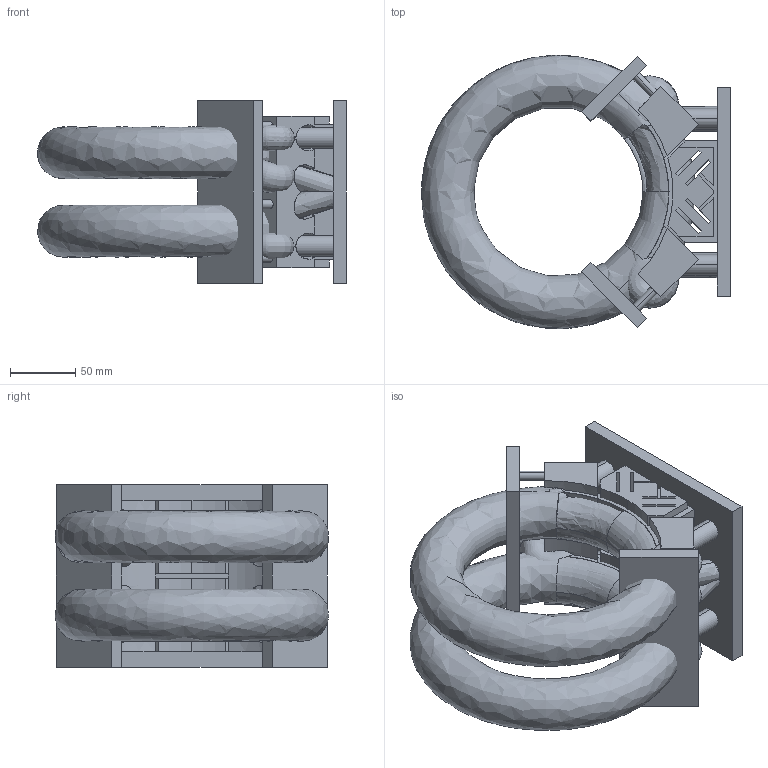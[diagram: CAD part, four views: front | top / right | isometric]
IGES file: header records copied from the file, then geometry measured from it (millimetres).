
Start section: IMSI TurboCAD v14.0
Global section: author: NULL; organization: NULL; date: 20231227.191532; units: millimetre
Bounding box: 236.75 x 209.9 x 140 mm (x, y, z)
Surface area: 630689.8 mm2 (no closed solid volume)
Topology: 0 solids, 0 shells, 336 faces, 2154 edges, 2134 vertices
Faces by surface type: revolution 202, extrusion 134
